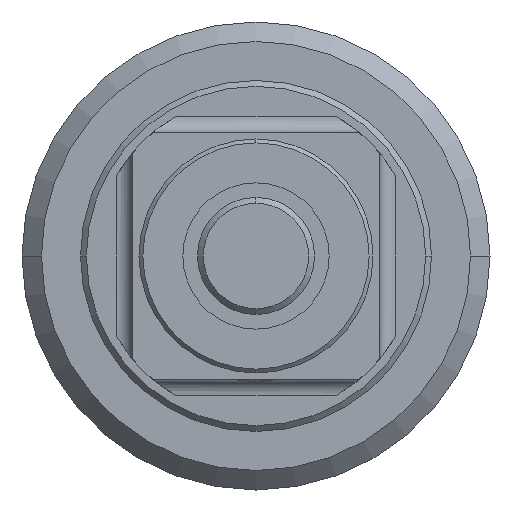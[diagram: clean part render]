
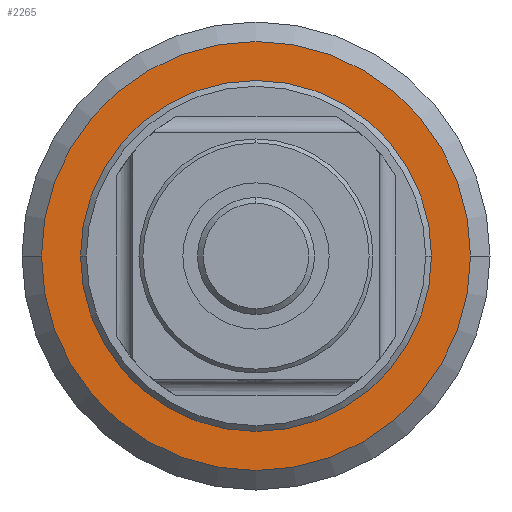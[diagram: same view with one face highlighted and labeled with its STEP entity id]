
A CAD part, left-side view. The second image highlights one B-rep face of the part: STEP entity #2265.
In plain terms, the highlighted planar face has unit normal (-1, 0, 0).
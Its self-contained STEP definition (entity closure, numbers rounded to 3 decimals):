
#101=CARTESIAN_POINT('',(5.5,0.,0.));
#102=DIRECTION('',(-1.,0.,0.));
#103=DIRECTION('',(0.,-1.,0.));
#104=AXIS2_PLACEMENT_3D('',#101,#102,#103);
#106=CARTESIAN_POINT('',(5.5,0.,0.));
#107=DIRECTION('',(-1.,0.,0.));
#108=DIRECTION('',(0.,1.,0.));
#109=AXIS2_PLACEMENT_3D('',#106,#107,#108);
#134=CARTESIAN_POINT('',(5.5,0.,0.));
#135=DIRECTION('',(-1.,0.,0.));
#136=DIRECTION('',(0.,1.,0.));
#137=AXIS2_PLACEMENT_3D('',#134,#135,#136);
#178=CARTESIAN_POINT('',(5.5,0.,0.));
#179=DIRECTION('',(1.,0.,0.));
#180=DIRECTION('',(0.,1.,0.));
#181=AXIS2_PLACEMENT_3D('',#178,#179,#180);
#1810=CARTESIAN_POINT('',(5.5,9.,0.));
#1811=CARTESIAN_POINT('',(5.5,-9.,0.));
#1812=VERTEX_POINT('',#1810);
#1813=VERTEX_POINT('',#1811);
#1879=CARTESIAN_POINT('',(5.5,-11.,0.));
#1880=CARTESIAN_POINT('',(5.5,11.,0.));
#1881=VERTEX_POINT('',#1879);
#1882=VERTEX_POINT('',#1880);
#2249=CARTESIAN_POINT('',(5.5,0.,0.));
#2250=DIRECTION('',(-1.,0.,0.));
#2251=DIRECTION('',(0.,1.,0.));
#2252=AXIS2_PLACEMENT_3D('',#2249,#2250,#2251);
#2253=PLANE('',#2252);
#2254=ORIENTED_EDGE('',*,*,#2239,.F.);
#2256=ORIENTED_EDGE('',*,*,#2255,.F.);
#2257=EDGE_LOOP('',(#2254,#2256));
#2258=FACE_OUTER_BOUND('',#2257,.F.);
#2260=ORIENTED_EDGE('',*,*,#2259,.T.);
#2262=ORIENTED_EDGE('',*,*,#2261,.F.);
#2263=EDGE_LOOP('',(#2260,#2262));
#2264=FACE_BOUND('',#2263,.F.);
#105=CIRCLE('',#104,11.);
#110=CIRCLE('',#109,11.);
#138=CIRCLE('',#137,9.);
#182=CIRCLE('',#181,9.);
#2239=EDGE_CURVE('',#1881,#1882,#105,.T.);
#2255=EDGE_CURVE('',#1882,#1881,#110,.T.);
#2259=EDGE_CURVE('',#1812,#1813,#138,.T.);
#2261=EDGE_CURVE('',#1812,#1813,#182,.T.);
#2265=ADVANCED_FACE('',(#2258,#2264),#2253,.T.);
